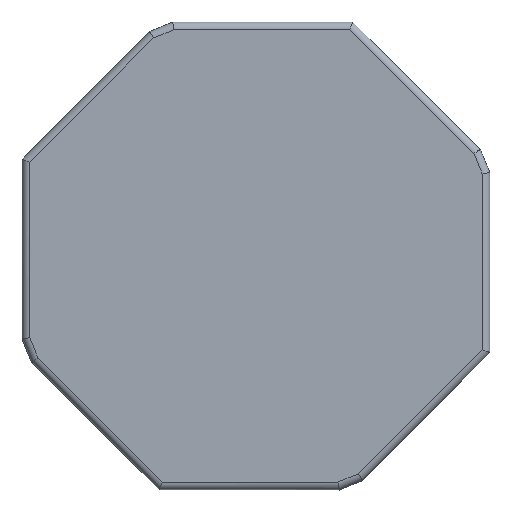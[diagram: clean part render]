
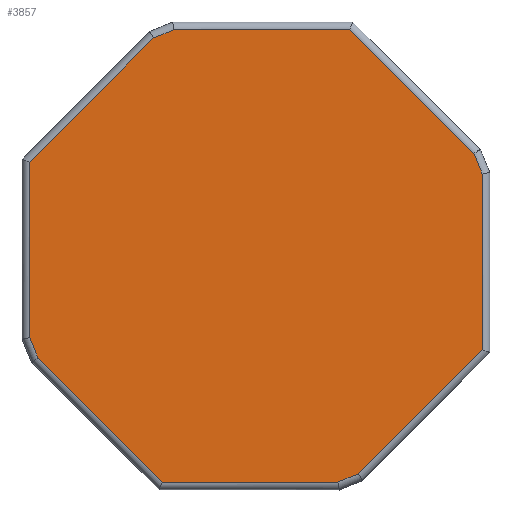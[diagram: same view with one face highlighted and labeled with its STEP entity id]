
A CAD part, top view. The second image highlights one B-rep face of the part: STEP entity #3857.
In plain terms, the highlighted planar face has unit normal (0, 0, 1).
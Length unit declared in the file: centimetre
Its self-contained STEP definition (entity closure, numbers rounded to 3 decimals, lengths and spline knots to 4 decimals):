
#577=PLANE('',#4134);
#682=VECTOR('',#4397,1.);
#684=VECTOR('',#4403,1.);
#686=VECTOR('',#4411,1.);
#687=VECTOR('',#4416,1.);
#689=VECTOR('',#4424,1.);
#691=VECTOR('',#4430,1.);
#693=VECTOR('',#4438,1.);
#694=VECTOR('',#4443,1.);
#697=VECTOR('',#4448,1.);
#698=VECTOR('',#4451,1.);
#701=VECTOR('',#4456,1.);
#702=VECTOR('',#4461,1.);
#860=LINE('',#5737,#682);
#862=LINE('',#5743,#684);
#864=LINE('',#5751,#686);
#865=LINE('',#5755,#687);
#867=LINE('',#5764,#689);
#869=LINE('',#5770,#691);
#871=LINE('',#5779,#693);
#872=LINE('',#5783,#694);
#875=LINE('',#5787,#697);
#876=LINE('',#5789,#698);
#879=LINE('',#5794,#701);
#880=LINE('',#5798,#702);
#1180=VERTEX_POINT('',#5736);
#1181=VERTEX_POINT('',#5738);
#1183=VERTEX_POINT('',#5744);
#1185=VERTEX_POINT('',#5750);
#1186=VERTEX_POINT('',#5752);
#1187=VERTEX_POINT('',#5756);
#1190=VERTEX_POINT('',#5763);
#1191=VERTEX_POINT('',#5765);
#1193=VERTEX_POINT('',#5771);
#1196=VERTEX_POINT('',#5778);
#1197=VERTEX_POINT('',#5780);
#1199=VERTEX_POINT('',#5795);
#1671=EDGE_CURVE('',#1180,#1181,#860,.T.);
#1674=EDGE_CURVE('',#1181,#1183,#862,.T.);
#1678=EDGE_CURVE('',#1185,#1186,#864,.T.);
#1680=EDGE_CURVE('',#1187,#1185,#865,.T.);
#1684=EDGE_CURVE('',#1190,#1191,#867,.T.);
#1687=EDGE_CURVE('',#1191,#1193,#869,.T.);
#1691=EDGE_CURVE('',#1196,#1197,#871,.T.);
#1693=EDGE_CURVE('',#1193,#1196,#872,.T.);
#1696=EDGE_CURVE('',#1197,#1187,#875,.T.);
#1697=EDGE_CURVE('',#1183,#1190,#876,.T.);
#1700=EDGE_CURVE('',#1186,#1199,#879,.T.);
#1702=EDGE_CURVE('',#1199,#1180,#880,.T.);
#2439=ORIENTED_EDGE('',*,*,#1691,.F.);
#2440=ORIENTED_EDGE('',*,*,#1693,.F.);
#2441=ORIENTED_EDGE('',*,*,#1687,.F.);
#2442=ORIENTED_EDGE('',*,*,#1684,.F.);
#2443=ORIENTED_EDGE('',*,*,#1697,.F.);
#2444=ORIENTED_EDGE('',*,*,#1674,.F.);
#2445=ORIENTED_EDGE('',*,*,#1671,.F.);
#2446=ORIENTED_EDGE('',*,*,#1702,.F.);
#2447=ORIENTED_EDGE('',*,*,#1700,.F.);
#2448=ORIENTED_EDGE('',*,*,#1678,.F.);
#2449=ORIENTED_EDGE('',*,*,#1680,.F.);
#2450=ORIENTED_EDGE('',*,*,#1696,.F.);
#3401=EDGE_LOOP('',(#2439,#2440,#2441,#2442,#2443,#2444,#2445,#2446,#2447,
#2448,#2449,#2450));
#3629=FACE_BOUND('',#3401,.T.);
#3857=ADVANCED_FACE('',(#3629),#577,.T.);
#4134=AXIS2_PLACEMENT_3D('',#5817,#4479,$);
#4397=DIRECTION('',(0.,-1.,0.));
#4403=DIRECTION('',(-0.707,-0.707,0.));
#4411=DIRECTION('',(1.,0.,0.));
#4416=DIRECTION('',(0.924,0.383,0.));
#4424=DIRECTION('',(-1.,0.,0.));
#4430=DIRECTION('',(-0.707,0.707,0.));
#4438=DIRECTION('',(0.,1.,0.));
#4443=DIRECTION('',(-0.383,0.924,0.));
#4448=DIRECTION('',(0.707,0.707,0.));
#4451=DIRECTION('',(-0.924,-0.383,0.));
#4456=DIRECTION('',(0.707,-0.707,0.));
#4461=DIRECTION('',(0.383,-0.924,0.));
#4479=DIRECTION('',(0.,0.,1.));
#5736=CARTESIAN_POINT('',(2.286,0.8264,0.254));
#5737=CARTESIAN_POINT('',(2.286,0.,0.254));
#5738=CARTESIAN_POINT('',(2.286,-0.9469,0.254));
#5743=CARTESIAN_POINT('',(1.6164,-1.6164,0.254));
#5744=CARTESIAN_POINT('',(1.0321,-2.2008,0.254));
#5750=CARTESIAN_POINT('',(-0.8264,2.286,0.254));
#5751=CARTESIAN_POINT('',(0.,2.286,0.254));
#5752=CARTESIAN_POINT('',(0.9469,2.286,0.254));
#5755=CARTESIAN_POINT('',(-0.9292,2.2434,0.254));
#5756=CARTESIAN_POINT('',(-1.0321,2.2008,0.254));
#5763=CARTESIAN_POINT('',(0.8264,-2.286,0.254));
#5764=CARTESIAN_POINT('',(0.,-2.286,0.254));
#5765=CARTESIAN_POINT('',(-0.9469,-2.286,0.254));
#5770=CARTESIAN_POINT('',(-1.6164,-1.6164,0.254));
#5771=CARTESIAN_POINT('',(-2.2008,-1.0321,0.254));
#5778=CARTESIAN_POINT('',(-2.286,-0.8264,0.254));
#5779=CARTESIAN_POINT('',(-2.286,0.,0.254));
#5780=CARTESIAN_POINT('',(-2.286,0.9469,0.254));
#5783=CARTESIAN_POINT('',(-2.2434,-0.9292,0.254));
#5787=CARTESIAN_POINT('',(-1.6164,1.6164,0.254));
#5789=CARTESIAN_POINT('',(0.9292,-2.2434,0.254));
#5794=CARTESIAN_POINT('',(1.6164,1.6164,0.254));
#5795=CARTESIAN_POINT('',(2.2008,1.0321,0.254));
#5798=CARTESIAN_POINT('',(2.2434,0.9292,0.254));
#5817=CARTESIAN_POINT('',(0.,0.,0.254));
